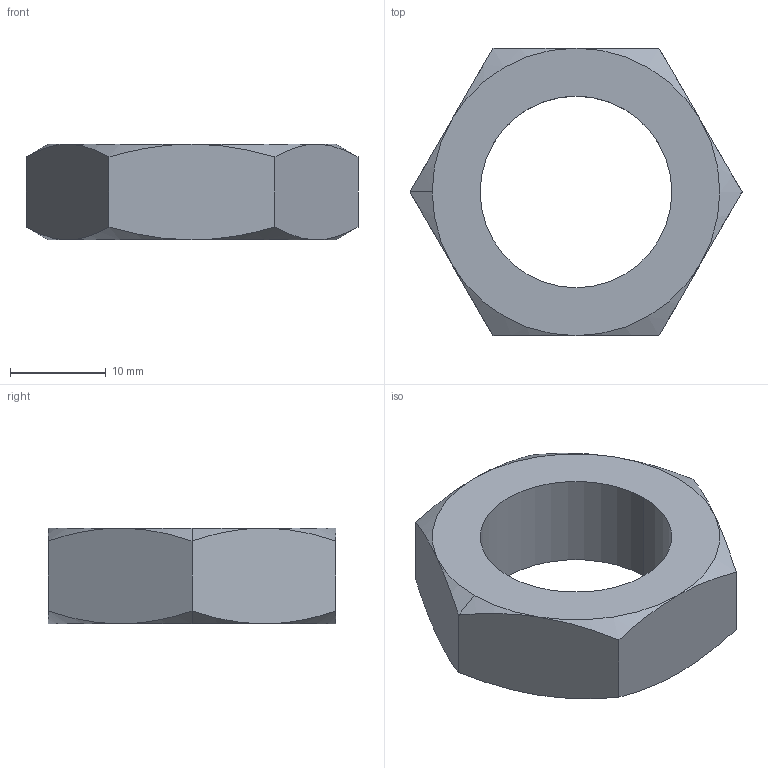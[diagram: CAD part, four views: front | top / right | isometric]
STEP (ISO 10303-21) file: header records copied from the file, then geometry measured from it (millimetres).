
FILE_DESCRIPTION (( 'STEP AP203' ), '1' );
FILE_NAME ('32700.W0520.step', '2011-03-28T12:08:23', ( 'Wixroyd' ), ( 'Wixroyd' ), 'SwSTEP 2.0', 'SolidWorks 2009', '' );
FILE_SCHEMA (( 'CONFIG_CONTROL_DESIGN' ));
Length unit declared in the file: millimetre
Products named in the file (1): 32700.W0520
Bounding box: 34.64 x 30 x 10 mm (x, y, z)
Volume: 4594 mm3; surface area: 2525 mm2
Topology: 1 solids, 1 shells, 24 faces, 52 edges, 30 vertices
Faces by surface type: cone 14, plane 8, cylinder 2
Entity records: 819 total; most frequent: CARTESIAN_POINT 251, ORIENTED_EDGE 104, DIRECTION 96, EDGE_CURVE 52, AXIS2_PLACEMENT_3D 43, VERTEX_POINT 30, EDGE_LOOP 26, ADVANCED_FACE 24
